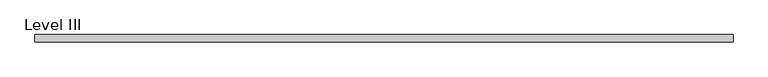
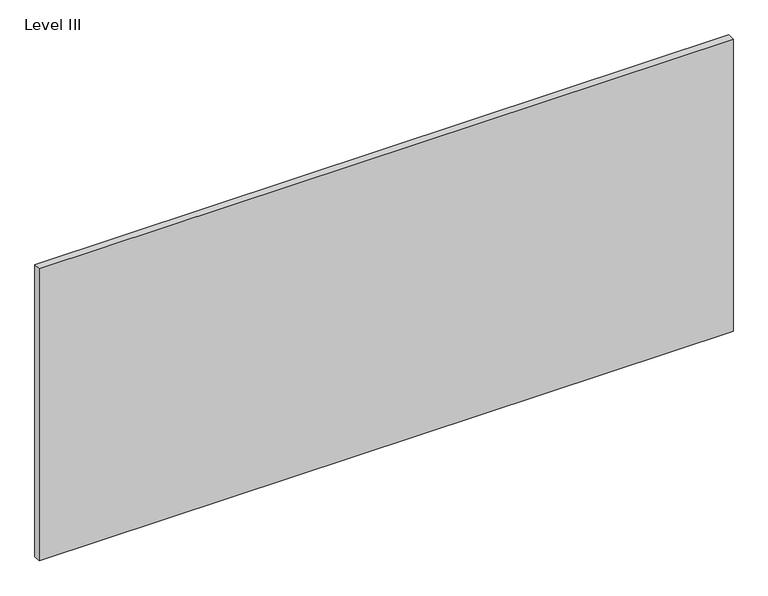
"""IFC4 building model written with IfcOpenShell, lengths in millimetres: proxy geometry, Panel-Fascia-Teknion-Altos-Standard : Level III."""

from ifc_helpers import new_model, si_unit, frame, origin, place, context, project, spatial, polyline, outline, extrude, source, transform, mapped, element, save


def level_iii_7086e34a(model_context):
    return source(origin(), model_context, "Body", "SweptSolid", [
        extrude(outline(polyline([(904.2300781, -9.525), (-904.2300781, -9.525), (-904.2300781, 9.525), (904.2300781, 9.525), (904.2300781, -9.525)])), frame((0.0, 0.0, 3.175), z_axis=(0.0, 0.0, 1.0), x_axis=(1.0, 0.0, 0.0)), (0.0, 0.0, 1.0), 804.418),
    ])


if __name__ == "__main__":
    model = new_model("IFC4")
    model_context = context("Model", 3, world=origin())
    ifc_project = project(units=[si_unit("LENGTHUNIT", "METRE", prefix="MILLI")], contexts=[model_context])
    site = spatial("IfcSite", under=ifc_project)
    building = spatial("IfcBuilding", under=site)
    placement = place(None, origin())
    level_iii_shape = level_iii_7086e34a(model_context)
    element("IfcBuildingElementProxy", 1, Name="Panel-Fascia-Teknion-Altos-Standard : Level III", ObjectType="Panel-Fascia-Teknion-Altos-Standard : Level III", at=placement, inside=building, context=model_context, shape_type="MappedRepresentation", body=[
        mapped(level_iii_shape, transform((0.0, 0.0, 0.0), x_axis=(1.0, 0.0, 0.0), y_axis=(0.0, 1.0, 0.0), z_axis=(0.0, 0.0, 1.0))),
    ])
    save(model, "model.ifc")
